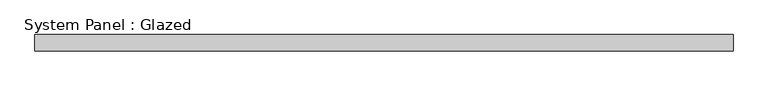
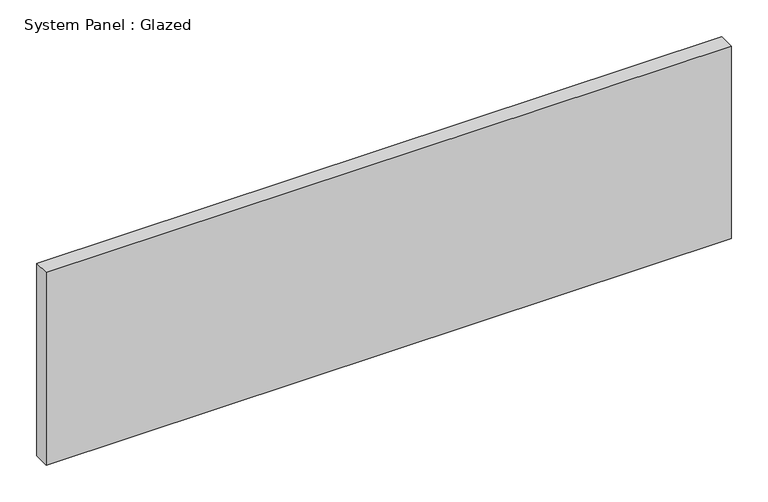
"""IFC4 building model written with IfcOpenShell, lengths in millimetres: plate geometry, System Panel : Glazed."""

from ifc_helpers import new_model, si_unit, origin, origin_with_axes, place, context, project, spatial, polyline, outline, extrude, source, transform, mapped, element, save


def system_panel_glazed_03837a61(model_context):
    return source(origin(), model_context, "Body", "SweptSolid", [
        extrude(outline(polyline([(538.48, 19.05), (-538.48, 19.05), (-538.48, 44.45), (538.48, 44.45), (538.48, 19.05)])), origin_with_axes(), (0.0, 0.0, 1.0), 320.2027241),
    ])


if __name__ == "__main__":
    model = new_model("IFC4")
    model_context = context("Model", 3, world=origin())
    ifc_project = project(units=[si_unit("LENGTHUNIT", "METRE", prefix="MILLI")], contexts=[model_context])
    site = spatial("IfcSite", under=ifc_project)
    building = spatial("IfcBuilding", under=site)
    placement = place(None, origin())
    system_panel_glazed_shape = system_panel_glazed_03837a61(model_context)
    element("IfcPlate", 1, ObjectType="System Panel : Glazed", at=placement, inside=building, context=model_context, shape_type="MappedRepresentation", body=[
        mapped(system_panel_glazed_shape, transform((0.0, 0.0, 0.0), x_axis=(1.0, 0.0, 0.0), y_axis=(0.0, 1.0, 0.0), z_axis=(0.0, 0.0, 1.0))),
    ])
    save(model, "model.ifc")
